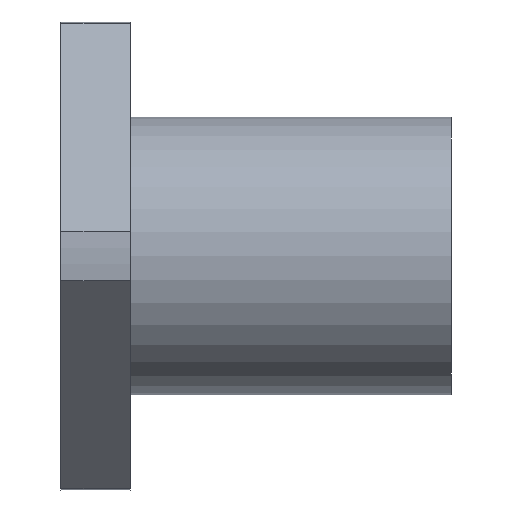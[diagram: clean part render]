
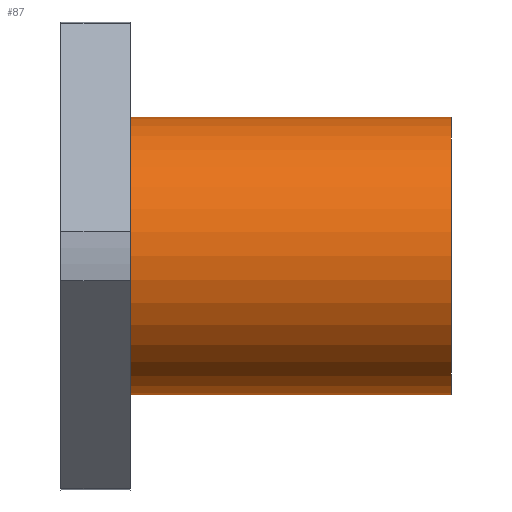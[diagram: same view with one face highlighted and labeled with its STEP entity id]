
A CAD part, front view. The second image highlights one B-rep face of the part: STEP entity #87.
In plain terms, the highlighted cylindrical face has radius 16 mm (diameter 32 mm), a full revolution.
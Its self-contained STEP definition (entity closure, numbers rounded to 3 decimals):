
#87 = ADVANCED_FACE( '', ( #138, #139 ), #140, .T. );
#138 = FACE_OUTER_BOUND( '', #213, .T. );
#139 = FACE_OUTER_BOUND( '', #214, .T. );
#140 = CYLINDRICAL_SURFACE( '', #215, 16. );
#213 = EDGE_LOOP( '', ( #347 ) );
#214 = EDGE_LOOP( '', ( #348 ) );
#215 = AXIS2_PLACEMENT_3D( '', #349, #350, #351 );
#347 = ORIENTED_EDGE( '', *, *, #438, .T. );
#348 = ORIENTED_EDGE( '', *, *, #450, .F. );
#349 = CARTESIAN_POINT( '', ( 45., 0., 0. ) );
#350 = DIRECTION( '', ( -1., 0., 0. ) );
#351 = DIRECTION( '', ( 0., 0., -1. ) );
#438 = EDGE_CURVE( '', #500, #500, #501, .T. );
#450 = EDGE_CURVE( '', #522, #522, #523, .T. );
#500 = VERTEX_POINT( '', #594 );
#501 = CIRCLE( '', #595, 16. );
#522 = VERTEX_POINT( '', #618 );
#523 = CIRCLE( '', #619, 16. );
#594 = CARTESIAN_POINT( '', ( 8., 0., -16. ) );
#595 = AXIS2_PLACEMENT_3D( '', #678, #679, #680 );
#618 = CARTESIAN_POINT( '', ( 45., 0., -16. ) );
#619 = AXIS2_PLACEMENT_3D( '', #710, #711, #712 );
#678 = CARTESIAN_POINT( '', ( 8., 0., 0. ) );
#679 = DIRECTION( '', ( 1., 0., 0. ) );
#680 = DIRECTION( '', ( 0., 0., -1. ) );
#710 = CARTESIAN_POINT( '', ( 45., 0., 0. ) );
#711 = DIRECTION( '', ( 1., 0., 0. ) );
#712 = DIRECTION( '', ( 0., 0., -1. ) );
